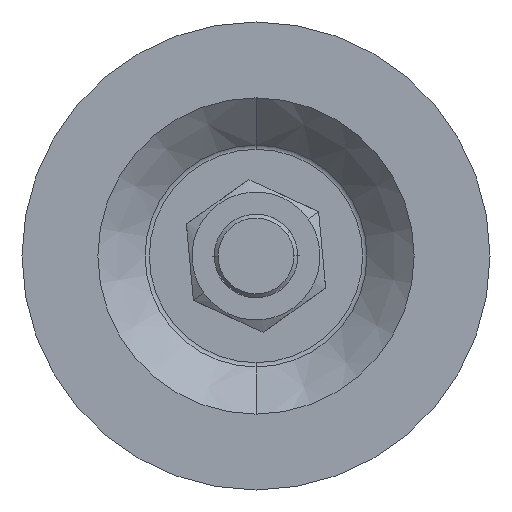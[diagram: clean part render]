
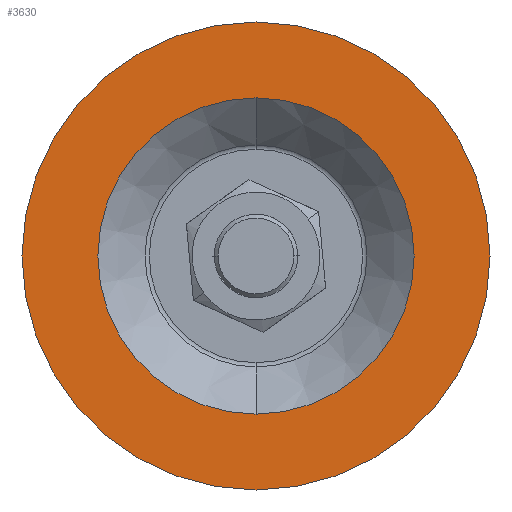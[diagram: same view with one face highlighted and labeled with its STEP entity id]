
A CAD part, front view. The second image highlights one B-rep face of the part: STEP entity #3630.
In plain terms, the highlighted planar face has unit normal (0, -1, 0).
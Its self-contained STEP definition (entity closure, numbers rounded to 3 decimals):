
#242 = VERTEX_POINT ( 'NONE', #3272 ) ;
#262 = CARTESIAN_POINT ( 'NONE',  ( 0., -2.4, 37. ) ) ;
#266 = ORIENTED_EDGE ( 'NONE', *, *, #1388, .F. ) ;
#666 = CARTESIAN_POINT ( 'NONE',  ( 0., -2.4, 0. ) ) ;
#758 = DIRECTION ( 'NONE',  ( 0., 0., -1. ) ) ;
#776 = AXIS2_PLACEMENT_3D ( 'NONE', #2789, #2202, #7237 ) ;
#905 = EDGE_LOOP ( 'NONE', ( #266, #2233 ) ) ;
#1211 = DIRECTION ( 'NONE',  ( 0., 0., -1. ) ) ;
#1292 = EDGE_CURVE ( 'NONE', #2476, #2992, #7376, .T. ) ;
#1359 = CARTESIAN_POINT ( 'NONE',  ( 0., -2.4, 0. ) ) ;
#1388 = EDGE_CURVE ( 'NONE', #242, #2175, #3583, .T. ) ;
#1403 = DIRECTION ( 'NONE',  ( 0., 0., -1. ) ) ;
#2073 = PLANE ( 'NONE',  #2514 ) ;
#2135 = EDGE_LOOP ( 'NONE', ( #3326, #5154 ) ) ;
#2175 = VERTEX_POINT ( 'NONE', #4832 ) ;
#2202 = DIRECTION ( 'NONE',  ( 0., -1., 0. ) ) ;
#2233 = ORIENTED_EDGE ( 'NONE', *, *, #3671, .F. ) ;
#2244 = CIRCLE ( 'NONE', #3769, 37. ) ;
#2476 = VERTEX_POINT ( 'NONE', #6434 ) ;
#2514 = AXIS2_PLACEMENT_3D ( 'NONE', #5176, #3273, #1403 ) ;
#2789 = CARTESIAN_POINT ( 'NONE',  ( 0., -2.4, 0. ) ) ;
#2992 = VERTEX_POINT ( 'NONE', #262 ) ;
#3272 = CARTESIAN_POINT ( 'NONE',  ( 0., -2.4, -25. ) ) ;
#3273 = DIRECTION ( 'NONE',  ( 0., -1., 0. ) ) ;
#3326 = ORIENTED_EDGE ( 'NONE', *, *, #1292, .T. ) ;
#3543 = CARTESIAN_POINT ( 'NONE',  ( 0., -2.4, 0. ) ) ;
#3583 = CIRCLE ( 'NONE', #6211, 25. ) ;
#3630 = ADVANCED_FACE ( 'NONE', ( #4553, #5430 ), #2073, .T. ) ;
#3671 = EDGE_CURVE ( 'NONE', #2175, #242, #5634, .T. ) ;
#3769 = AXIS2_PLACEMENT_3D ( 'NONE', #1359, #7685, #758 ) ;
#4553 = FACE_OUTER_BOUND ( 'NONE', #2135, .T. ) ;
#4779 = DIRECTION ( 'NONE',  ( 0., -1., 0. ) ) ;
#4832 = CARTESIAN_POINT ( 'NONE',  ( 0., -2.4, 25. ) ) ;
#5154 = ORIENTED_EDGE ( 'NONE', *, *, #8128, .T. ) ;
#5176 = CARTESIAN_POINT ( 'NONE',  ( 37., -2.4, 0. ) ) ;
#5365 = DIRECTION ( 'NONE',  ( 0., 0., -1. ) ) ;
#5430 = FACE_BOUND ( 'NONE', #905, .T. ) ;
#5634 = CIRCLE ( 'NONE', #776, 25. ) ;
#5737 = AXIS2_PLACEMENT_3D ( 'NONE', #3543, #4779, #5365 ) ;
#6211 = AXIS2_PLACEMENT_3D ( 'NONE', #666, #6993, #1211 ) ;
#6434 = CARTESIAN_POINT ( 'NONE',  ( 0., -2.4, -37. ) ) ;
#6993 = DIRECTION ( 'NONE',  ( 0., -1., 0. ) ) ;
#7237 = DIRECTION ( 'NONE',  ( 0., 0., -1. ) ) ;
#7376 = CIRCLE ( 'NONE', #5737, 37. ) ;
#7685 = DIRECTION ( 'NONE',  ( 0., -1., 0. ) ) ;
#8128 = EDGE_CURVE ( 'NONE', #2992, #2476, #2244, .T. ) ;
